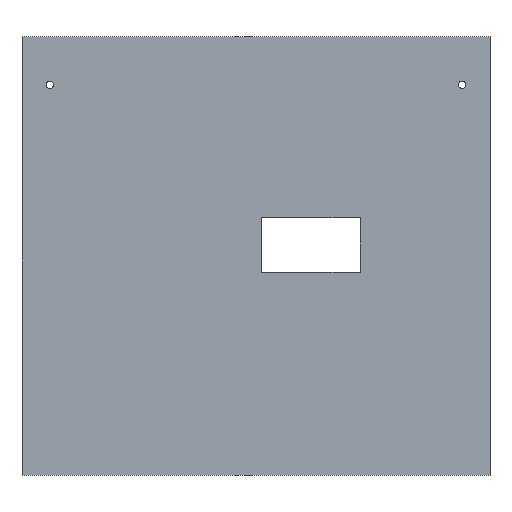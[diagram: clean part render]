
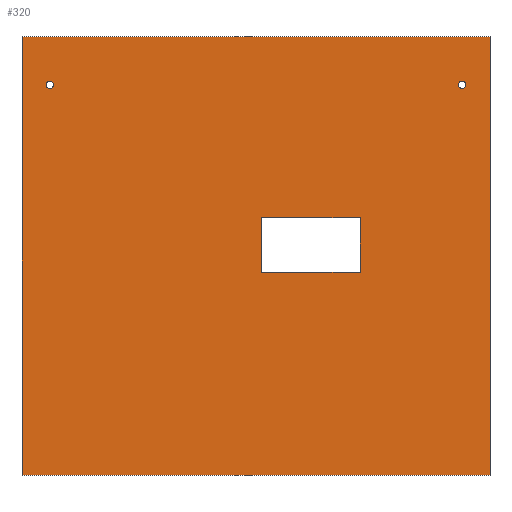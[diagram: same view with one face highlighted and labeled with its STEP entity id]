
A CAD part, top view. The second image highlights one B-rep face of the part: STEP entity #320.
In plain terms, the highlighted planar face has unit normal (0, 0, 1).
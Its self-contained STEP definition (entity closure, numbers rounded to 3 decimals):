
#11=DIRECTION('',(0.0,0.0,1.0));
#12=DIRECTION('',(1.0,0.0,0.0));
#20=DIRECTION('',(0.0,1.0,0.0));
#43=DIRECTION('',(-1.0,0.0,0.0));
#44=VECTOR('',#43,45.0);
#52=VECTOR('',#20,25.0);
#86=VECTOR('',#20,200.0);
#94=VECTOR('',#12,213.333);
#116=CARTESIAN_POINT('',(95.7,78.0,100.0));
#117=VERTEX_POINT('',#116);
#123=CARTESIAN_POINT('',(95.7,76.3,100.0));
#124=CARTESIAN_POINT('',(94.0,76.3,100.0));
#125=CARTESIAN_POINT('',(92.3,76.3,100.0));
#126=CARTESIAN_POINT('',(92.3,78.0,100.0));
#127=(BOUNDED_CURVE()B_SPLINE_CURVE(2,(#126,#125,#124,#123,#116),.UNSPECIFIED.,.U.,.U.)B_SPLINE_CURVE_WITH_KNOTS((3,2,3),(0.0,0.5,1.0),.UNSPECIFIED.)CURVE()GEOMETRIC_REPRESENTATION_ITEM()RATIONAL_B_SPLINE_CURVE((1.0,0.707,1.0,0.707,1.0))REPRESENTATION_ITEM(''));
#128=VERTEX_POINT('',#126);
#129=EDGE_CURVE('',#128,#117,#127,.T.);
#131=CARTESIAN_POINT('',(92.3,79.7,100.0));
#132=CARTESIAN_POINT('',(94.0,79.7,100.0));
#133=CARTESIAN_POINT('',(95.7,79.7,100.0));
#134=(BOUNDED_CURVE()B_SPLINE_CURVE(2,(#116,#133,#132,#131,#126),.UNSPECIFIED.,.U.,.U.)B_SPLINE_CURVE_WITH_KNOTS((3,2,3),(0.0,0.5,1.0),.UNSPECIFIED.)CURVE()GEOMETRIC_REPRESENTATION_ITEM()RATIONAL_B_SPLINE_CURVE((1.0,0.707,1.0,0.707,1.0))REPRESENTATION_ITEM(''));
#135=EDGE_CURVE('',#117,#128,#134,.T.);
#145=CARTESIAN_POINT('',(47.5,17.5,100.0));
#146=VERTEX_POINT('',#145);
#151=CARTESIAN_POINT('',(2.5,17.5,100.0));
#152=VERTEX_POINT('',#151);
#155=LINE('',#145,#44);
#156=EDGE_CURVE('',#146,#152,#155,.T.);
#165=CARTESIAN_POINT('',(2.5,-7.5,100.0));
#166=LINE('',#165,#52);
#167=VERTEX_POINT('',#165);
#168=EDGE_CURVE('',#167,#152,#166,.T.);
#182=CARTESIAN_POINT('',(47.5,-7.5,100.0));
#183=VERTEX_POINT('',#182);
#188=LINE('',#182,#52);
#189=EDGE_CURVE('',#183,#146,#188,.T.);
#196=LINE('',#182,#44);
#197=EDGE_CURVE('',#183,#167,#196,.T.);
#209=CARTESIAN_POINT('',(-92.3,78.0,100.0));
#210=VERTEX_POINT('',#209);
#216=CARTESIAN_POINT('',(-92.3,76.3,100.0));
#217=CARTESIAN_POINT('',(-94.0,76.3,100.0));
#218=CARTESIAN_POINT('',(-95.7,76.3,100.0));
#219=CARTESIAN_POINT('',(-95.7,78.0,100.0));
#220=(BOUNDED_CURVE()B_SPLINE_CURVE(2,(#219,#218,#217,#216,#209),.UNSPECIFIED.,.U.,.U.)B_SPLINE_CURVE_WITH_KNOTS((3,2,3),(0.0,0.5,1.0),.UNSPECIFIED.)CURVE()GEOMETRIC_REPRESENTATION_ITEM()RATIONAL_B_SPLINE_CURVE((1.0,0.707,1.0,0.707,1.0))REPRESENTATION_ITEM(''));
#221=VERTEX_POINT('',#219);
#222=EDGE_CURVE('',#221,#210,#220,.T.);
#224=CARTESIAN_POINT('',(-95.7,79.7,100.0));
#225=CARTESIAN_POINT('',(-94.0,79.7,100.0));
#226=CARTESIAN_POINT('',(-92.3,79.7,100.0));
#227=(BOUNDED_CURVE()B_SPLINE_CURVE(2,(#209,#226,#225,#224,#219),.UNSPECIFIED.,.U.,.U.)B_SPLINE_CURVE_WITH_KNOTS((3,2,3),(0.0,0.5,1.0),.UNSPECIFIED.)CURVE()GEOMETRIC_REPRESENTATION_ITEM()RATIONAL_B_SPLINE_CURVE((1.0,0.707,1.0,0.707,1.0))REPRESENTATION_ITEM(''));
#228=EDGE_CURVE('',#210,#221,#227,.T.);
#237=CARTESIAN_POINT('',(-106.667,-100.0,100.0));
#239=VERTEX_POINT('',#237);
#242=LINE('',#237,#94);
#243=CARTESIAN_POINT('',(106.667,-100.0,100.0));
#244=VERTEX_POINT('',#243);
#245=EDGE_CURVE('',#239,#244,#242,.T.);
#256=CARTESIAN_POINT('',(106.667,100.0,100.0));
#258=VERTEX_POINT('',#256);
#263=LINE('',#243,#86);
#264=EDGE_CURVE('',#244,#258,#263,.T.);
#273=CARTESIAN_POINT('',(-106.667,100.0,100.0));
#274=LINE('',#273,#94);
#275=VERTEX_POINT('',#273);
#276=EDGE_CURVE('',#275,#258,#274,.T.);
#288=LINE('',#237,#86);
#289=EDGE_CURVE('',#239,#275,#288,.T.);
#297=CARTESIAN_POINT('',(-320.0,-100.0,100.0));
#298=AXIS2_PLACEMENT_3D('',#297,#11,#12);
#299=PLANE('',#298);
#300=ORIENTED_EDGE('',*,*,#135,.F.);
#301=ORIENTED_EDGE('',*,*,#129,.F.);
#302=EDGE_LOOP('',(#301,#300));
#303=FACE_BOUND('',#302,.T.);
#304=ORIENTED_EDGE('',*,*,#189,.F.);
#305=ORIENTED_EDGE('',*,*,#156,.F.);
#306=ORIENTED_EDGE('',*,*,#168,.T.);
#307=ORIENTED_EDGE('',*,*,#197,.T.);
#308=EDGE_LOOP('',(#307,#306,#305,#304));
#309=FACE_BOUND('',#308,.T.);
#310=ORIENTED_EDGE('',*,*,#228,.F.);
#311=ORIENTED_EDGE('',*,*,#222,.F.);
#312=EDGE_LOOP('',(#311,#310));
#313=FACE_BOUND('',#312,.T.);
#314=ORIENTED_EDGE('',*,*,#276,.F.);
#315=ORIENTED_EDGE('',*,*,#264,.T.);
#316=ORIENTED_EDGE('',*,*,#245,.T.);
#317=ORIENTED_EDGE('',*,*,#289,.F.);
#318=EDGE_LOOP('',(#317,#316,#315,#314));
#319=FACE_BOUND('',#318,.T.);
#320=ADVANCED_FACE('',(#319,#313,#309,#303),#299,.T.);
